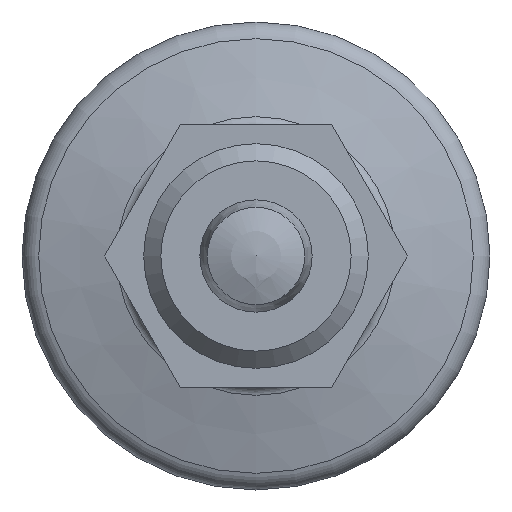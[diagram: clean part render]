
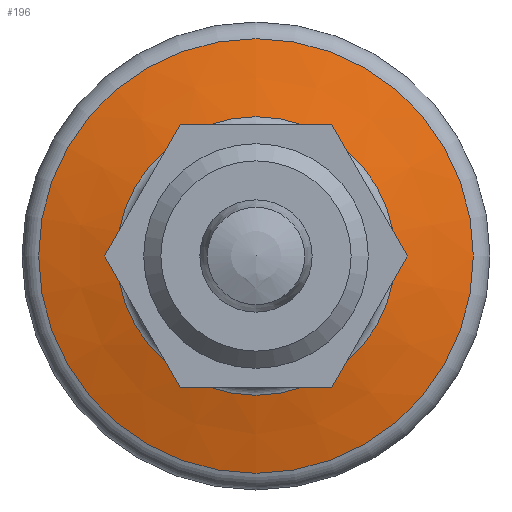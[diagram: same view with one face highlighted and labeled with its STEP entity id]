
A CAD part, front view. The second image highlights one B-rep face of the part: STEP entity #196.
In plain terms, the highlighted conical face has half-angle 75 degrees and reference radius 11.611 mm.
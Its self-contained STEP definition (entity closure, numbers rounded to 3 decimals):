
#196 = ADVANCED_FACE( '', ( #278, #279 ), #280, .T. );
#278 = FACE_BOUND( '', #415, .T. );
#279 = FACE_OUTER_BOUND( '', #416, .T. );
#280 = CONICAL_SURFACE( '', #417, 11.611, 1.309 );
#415 = EDGE_LOOP( '', ( #614 ) );
#416 = EDGE_LOOP( '', ( #615 ) );
#417 = AXIS2_PLACEMENT_3D( '', #616, #617, #618 );
#614 = ORIENTED_EDGE( '', *, *, #714, .F. );
#615 = ORIENTED_EDGE( '', *, *, #713, .T. );
#616 = CARTESIAN_POINT( '', ( 41.262, 0., 0. ) );
#617 = DIRECTION( '', ( 1., 0., 0. ) );
#618 = DIRECTION( '', ( 0., 1., 0. ) );
#713 = EDGE_CURVE( '', #799, #799, #800, .T. );
#714 = EDGE_CURVE( '', #801, #801, #802, .T. );
#799 = VERTEX_POINT( '', #975 );
#800 = CIRCLE( '', #976, 11.611 );
#801 = VERTEX_POINT( '', #977 );
#802 = CIRCLE( '', #978, 7.44 );
#975 = CARTESIAN_POINT( '', ( 41.262, -11.611, 0. ) );
#976 = AXIS2_PLACEMENT_3D( '', #1066, #1067, #1068 );
#977 = CARTESIAN_POINT( '', ( 40.144, -7.44, 0. ) );
#978 = AXIS2_PLACEMENT_3D( '', #1069, #1070, #1071 );
#1066 = CARTESIAN_POINT( '', ( 41.262, 0., 0. ) );
#1067 = DIRECTION( '', ( -1., 0., 0. ) );
#1068 = DIRECTION( '', ( 0., -1., 0. ) );
#1069 = CARTESIAN_POINT( '', ( 40.144, 0., 0. ) );
#1070 = DIRECTION( '', ( -1., 0., 0. ) );
#1071 = DIRECTION( '', ( 0., -1., 0. ) );
